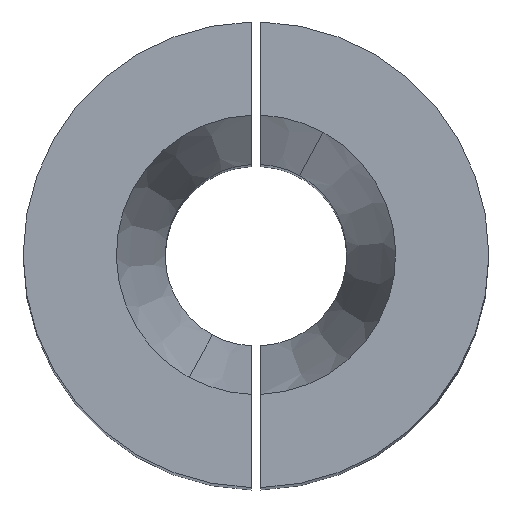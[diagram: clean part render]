
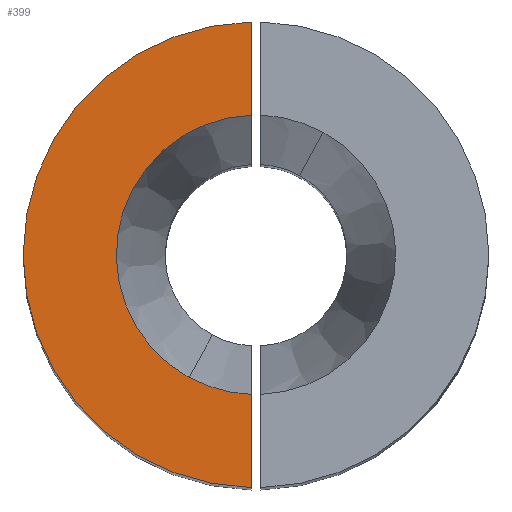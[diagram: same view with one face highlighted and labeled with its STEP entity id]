
A CAD part, top view. The second image highlights one B-rep face of the part: STEP entity #399.
In plain terms, the highlighted planar face has unit normal (0, 0, 1).
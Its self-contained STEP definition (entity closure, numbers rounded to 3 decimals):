
#86=AXIS2_PLACEMENT_3D('Plane Axis2P3D',#83,#84,#85) ;
#360=AXIS2_PLACEMENT_3D('Circle Axis2P3D',#358,#359,$) ;
#369=AXIS2_PLACEMENT_3D('Circle Axis2P3D',#367,#368,$) ;
#374=AXIS2_PLACEMENT_3D('Circle Axis2P3D',#372,#373,$) ;
#381=AXIS2_PLACEMENT_3D('Circle Axis2P3D',#379,#380,$) ;
#83=CARTESIAN_POINT('Axis2P3D Location',(0.,0.,30.)) ;
#312=CARTESIAN_POINT('Line Origine',(-0.1,-3.999,30.)) ;
#316=CARTESIAN_POINT('Vertex',(-0.1,-2.998,30.)) ;
#318=CARTESIAN_POINT('Vertex',(-0.1,-4.999,30.)) ;
#358=CARTESIAN_POINT('Axis2P3D Location',(0.,0.,30.)) ;
#362=CARTESIAN_POINT('Vertex',(-0.1,4.999,30.)) ;
#364=CARTESIAN_POINT('Vertex',(-5.,0.,30.)) ;
#367=CARTESIAN_POINT('Axis2P3D Location',(0.,0.,30.)) ;
#372=CARTESIAN_POINT('Axis2P3D Location',(0.,0.,30.)) ;
#376=CARTESIAN_POINT('Vertex',(-1.438,-2.633,30.)) ;
#379=CARTESIAN_POINT('Axis2P3D Location',(0.,0.,30.)) ;
#383=CARTESIAN_POINT('Vertex',(-0.1,2.998,30.)) ;
#386=CARTESIAN_POINT('Line Origine',(-0.1,3.999,30.)) ;
#84=DIRECTION('Axis2P3D Direction',(0.,0.,1.)) ;
#85=DIRECTION('Axis2P3D XDirection',(1.,0.,0.)) ;
#313=DIRECTION('Vector Direction',(0.,-1.,0.)) ;
#359=DIRECTION('Axis2P3D Direction',(0.,0.,1.)) ;
#368=DIRECTION('Axis2P3D Direction',(0.,0.,1.)) ;
#373=DIRECTION('Axis2P3D Direction',(0.,0.,1.)) ;
#380=DIRECTION('Axis2P3D Direction',(0.,0.,1.)) ;
#387=DIRECTION('Vector Direction',(0.,-1.,0.)) ;
#314=VECTOR('Line Direction',#313,1.) ;
#388=VECTOR('Line Direction',#387,1.) ;
#392=ORIENTED_EDGE('',*,*,#366,.T.) ;
#393=ORIENTED_EDGE('',*,*,#371,.T.) ;
#394=ORIENTED_EDGE('',*,*,#320,.F.) ;
#395=ORIENTED_EDGE('',*,*,#378,.T.) ;
#396=ORIENTED_EDGE('',*,*,#385,.T.) ;
#397=ORIENTED_EDGE('',*,*,#390,.F.) ;
#399=ADVANCED_FACE('\X2\96F64EF651E04F554F53\X0\',(#398),#87,.T.) ;
#361=CIRCLE('generated circle',#360,5.) ;
#370=CIRCLE('generated circle',#369,5.) ;
#375=CIRCLE('generated circle',#374,3.) ;
#382=CIRCLE('generated circle',#381,3.) ;
#320=EDGE_CURVE('',#317,#319,#315,.T.) ;
#366=EDGE_CURVE('',#363,#365,#361,.T.) ;
#371=EDGE_CURVE('',#365,#319,#370,.T.) ;
#378=EDGE_CURVE('',#317,#377,#375,.F.) ;
#385=EDGE_CURVE('',#377,#384,#382,.F.) ;
#390=EDGE_CURVE('',#363,#384,#389,.T.) ;
#391=EDGE_LOOP('',(#392,#393,#394,#395,#396,#397)) ;
#398=FACE_OUTER_BOUND('',#391,.T.) ;
#315=LINE('Line',#312,#314) ;
#389=LINE('Line',#386,#388) ;
#87=PLANE('',#86) ;
#317=VERTEX_POINT('',#316) ;
#319=VERTEX_POINT('',#318) ;
#363=VERTEX_POINT('',#362) ;
#365=VERTEX_POINT('',#364) ;
#377=VERTEX_POINT('',#376) ;
#384=VERTEX_POINT('',#383) ;
